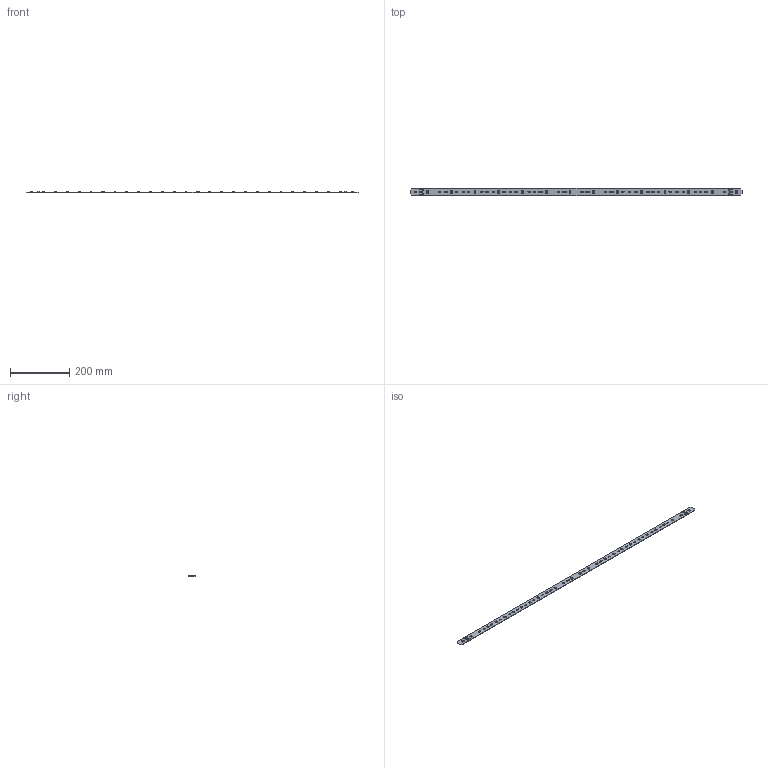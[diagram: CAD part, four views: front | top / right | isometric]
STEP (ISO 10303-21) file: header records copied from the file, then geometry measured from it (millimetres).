
FILE_DESCRIPTION(/* description */ ('Unknown'),/* implementation_level */ '2;1');
FILE_NAME(/* name */ 'LinLED 1120x24mm 4400lm 4C 42V DAISY-28X1 sh-000 2025-10-21',/* time_stamp */ '2025-10-22T11:25:58+02:00',/* author */ ('Unknown'),/* organization */ ('Unknown'),/* preprocessor_version */ 'ST-DEVELOPER v18.102',/* originating_system */ 'Solid Edge',/* authorisation */ 'Unknown');
FILE_SCHEMA (('AUTOMOTIVE_DESIGN {1 0 10303 214 3 1 1}'));
Products named in the file (1): LinLED 1120x24mm 4400lm 4C 42V DAISY-28X1 sh-000 2025-10-21
Bounding box: 1119 x 24 x 4.33 mm (x, y, z)
Volume: 43108.9 mm3; surface area: 58465.4 mm2
Topology: 1 solids, 1 shells, 3530 faces, 10550 edges, 7316 vertices
Faces by surface type: plane 2790, cylinder 682, bspline 32, sphere 18, cone 4, torus 4
Full cylindrical faces by diameter (mm): 1.25 x4, 2.1 x17, 3.6 x9
Entity records: 144875 total; most frequent: CARTESIAN_POINT 22877, ORIENTED_EDGE 20976, DIRECTION 19150, EDGE_CURVE 10488, LINE 8552, VECTOR 8552, VERTEX_POINT 7298, AXIS2_PLACEMENT_3D 5299
